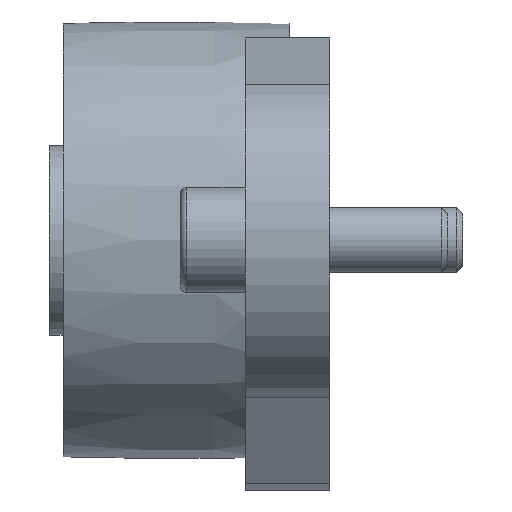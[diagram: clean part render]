
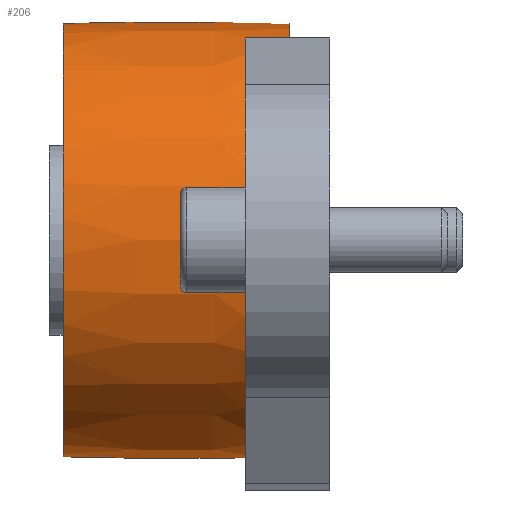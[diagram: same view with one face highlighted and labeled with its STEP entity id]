
A CAD part, left-side view. The second image highlights one B-rep face of the part: STEP entity #206.
In plain terms, the highlighted free-form (B-spline) face has degree [3, 3] with [4, 7] control points.
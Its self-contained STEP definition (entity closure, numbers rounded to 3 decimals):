
#206 = ADVANCED_FACE( '', ( #298, #299 ), #300, .T. );
#298 = FACE_OUTER_BOUND( '', #506, .T. );
#299 = FACE_OUTER_BOUND( '', #507, .T. );
#300 = ( BOUNDED_SURFACE(  )B_SPLINE_SURFACE( 3, 3, ( ( #510, #511, #512, #513, #514, #515, #516 ), ( #517, #518, #519, #520, #521, #522, #523 ), ( #524, #525, #526, #527, #528, #529, #530 ), ( #531, #532, #533, #534, #535, #536, #537 ) ), .UNSPECIFIED., .F., .T., .F. )B_SPLINE_SURFACE_WITH_KNOTS( ( 4, 4 ), ( 4, 3, 4 ), ( 0., 6.283 ), ( -0.028, 0., 0.028 ), .UNSPECIFIED. )GEOMETRIC_REPRESENTATION_ITEM(  )RATIONAL_B_SPLINE_SURFACE( ( ( 1., 0.333, 0.333, 1., 0.333, 0.333, 1. ), ( 1., 0.333, 0.333, 1., 0.333, 0.333, 1. ), ( 1., 0.333, 0.333, 1., 0.333, 0.333, 1. ), ( 1., 0.333, 0.333, 1., 0.333, 0.333, 1. ) ) )REPRESENTATION_ITEM( '' )SURFACE(  ) );
#506 = EDGE_LOOP( '', ( #747 ) );
#507 = EDGE_LOOP( '', ( #748, #749, #750, #751 ) );
#510 = CARTESIAN_POINT( '', ( 0., 5., -26.804 ) );
#511 = CARTESIAN_POINT( '', ( 53.608, 5., -26.804 ) );
#512 = CARTESIAN_POINT( '', ( 53.608, 5., 26.804 ) );
#513 = CARTESIAN_POINT( '', ( 0., 5., 26.804 ) );
#514 = CARTESIAN_POINT( '', ( -53.608, 5., 26.804 ) );
#515 = CARTESIAN_POINT( '', ( -53.608, 5., -26.804 ) );
#516 = CARTESIAN_POINT( '', ( 0., 5., -26.804 ) );
#517 = CARTESIAN_POINT( '', ( 0., 14.332, -27.065 ) );
#518 = CARTESIAN_POINT( '', ( 54.131, 14.332, -27.065 ) );
#519 = CARTESIAN_POINT( '', ( 54.131, 14.332, 27.065 ) );
#520 = CARTESIAN_POINT( '', ( 0., 14.332, 27.065 ) );
#521 = CARTESIAN_POINT( '', ( -54.131, 14.332, 27.065 ) );
#522 = CARTESIAN_POINT( '', ( -54.131, 14.332, -27.065 ) );
#523 = CARTESIAN_POINT( '', ( 0., 14.332, -27.065 ) );
#524 = CARTESIAN_POINT( '', ( 0., 23.668, -27.065 ) );
#525 = CARTESIAN_POINT( '', ( 54.131, 23.668, -27.065 ) );
#526 = CARTESIAN_POINT( '', ( 54.131, 23.668, 27.065 ) );
#527 = CARTESIAN_POINT( '', ( 0., 23.668, 27.065 ) );
#528 = CARTESIAN_POINT( '', ( -54.131, 23.668, 27.065 ) );
#529 = CARTESIAN_POINT( '', ( -54.131, 23.668, -27.065 ) );
#530 = CARTESIAN_POINT( '', ( 0., 23.668, -27.065 ) );
#531 = CARTESIAN_POINT( '', ( 0., 33., -26.804 ) );
#532 = CARTESIAN_POINT( '', ( 53.608, 33., -26.804 ) );
#533 = CARTESIAN_POINT( '', ( 53.608, 33., 26.804 ) );
#534 = CARTESIAN_POINT( '', ( 0., 33., 26.804 ) );
#535 = CARTESIAN_POINT( '', ( -53.608, 33., 26.804 ) );
#536 = CARTESIAN_POINT( '', ( -53.608, 33., -26.804 ) );
#537 = CARTESIAN_POINT( '', ( 0., 33., -26.804 ) );
#747 = ORIENTED_EDGE( '', *, *, #1393, .T. );
#748 = ORIENTED_EDGE( '', *, *, #1394, .F. );
#749 = ORIENTED_EDGE( '', *, *, #1395, .F. );
#750 = ORIENTED_EDGE( '', *, *, #1396, .F. );
#751 = ORIENTED_EDGE( '', *, *, #1397, .T. );
#1393 = EDGE_CURVE( '', #1583, #1583, #1584, .T. );
#1394 = EDGE_CURVE( '', #1585, #1586, #1587, .T. );
#1395 = EDGE_CURVE( '', #1588, #1585, #1589, .T. );
#1396 = EDGE_CURVE( '', #1590, #1588, #1591, .T. );
#1397 = EDGE_CURVE( '', #1590, #1586, #1592, .T. );
#1583 = VERTEX_POINT( '', #1899 );
#1584 = CIRCLE( '', #1900, 26.804 );
#1585 = VERTEX_POINT( '', #1901 );
#1586 = VERTEX_POINT( '', #1902 );
#1587 = B_SPLINE_CURVE_WITH_KNOTS( '', 3, ( #1903, #1904, #1905, #1906, #1907, #1908 ), .UNSPECIFIED., .F., .F., ( 4, 2, 4 ), ( 0.034, 0.037, 0.039 ), .UNSPECIFIED. );
#1588 = VERTEX_POINT( '', #1909 );
#1589 = CIRCLE( '', #1910, 26.804 );
#1590 = VERTEX_POINT( '', #1911 );
#1591 = B_SPLINE_CURVE_WITH_KNOTS( '', 3, ( #1912, #1913, #1914, #1915, #1916, #1917 ), .UNSPECIFIED., .F., .F., ( 4, 2, 4 ), ( 0.154, 0.156, 0.159 ), .UNSPECIFIED. );
#1592 = CIRCLE( '', #1918, 26.928 );
#1899 = CARTESIAN_POINT( '', ( 0., 33., -26.804 ) );
#1900 = AXIS2_PLACEMENT_3D( '', #2515, #2516, #2517 );
#1901 = CARTESIAN_POINT( '', ( -9.667, 5., 25. ) );
#1902 = CARTESIAN_POINT( '', ( -10.005, 10.5, 25. ) );
#1903 = CARTESIAN_POINT( '', ( -9.667, 5., 25. ) );
#1904 = CARTESIAN_POINT( '', ( -9.738, 5.915, 25. ) );
#1905 = CARTESIAN_POINT( '', ( -9.802, 6.833, 25. ) );
#1906 = CARTESIAN_POINT( '', ( -9.914, 8.667, 25. ) );
#1907 = CARTESIAN_POINT( '', ( -9.963, 9.584, 25. ) );
#1908 = CARTESIAN_POINT( '', ( -10.005, 10.5, 25. ) );
#1909 = CARTESIAN_POINT( '', ( 9.667, 5., 25. ) );
#1910 = AXIS2_PLACEMENT_3D( '', #2518, #2519, #2520 );
#1911 = CARTESIAN_POINT( '', ( 10.005, 10.5, 25. ) );
#1912 = CARTESIAN_POINT( '', ( 10.005, 10.5, 25. ) );
#1913 = CARTESIAN_POINT( '', ( 9.963, 9.582, 25. ) );
#1914 = CARTESIAN_POINT( '', ( 9.914, 8.665, 25. ) );
#1915 = CARTESIAN_POINT( '', ( 9.802, 6.832, 25. ) );
#1916 = CARTESIAN_POINT( '', ( 9.738, 5.915, 25. ) );
#1917 = CARTESIAN_POINT( '', ( 9.667, 5., 25. ) );
#1918 = AXIS2_PLACEMENT_3D( '', #2521, #2522, #2523 );
#2515 = CARTESIAN_POINT( '', ( 0., 33., 0. ) );
#2516 = DIRECTION( '', ( 0., -1., 0. ) );
#2517 = DIRECTION( '', ( 0., 0., -1. ) );
#2518 = CARTESIAN_POINT( '', ( 0., 5., 0. ) );
#2519 = DIRECTION( '', ( 0., -1., 0. ) );
#2520 = DIRECTION( '', ( 0., 0., -1. ) );
#2521 = CARTESIAN_POINT( '', ( 0., 10.5, 0. ) );
#2522 = DIRECTION( '', ( 0., 1., 0. ) );
#2523 = DIRECTION( '', ( 0., 0., 1. ) );
